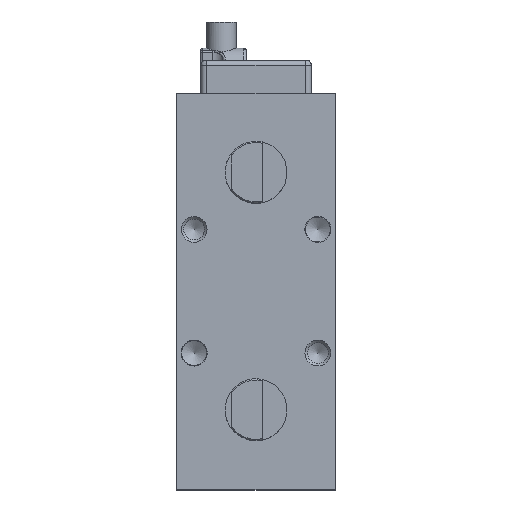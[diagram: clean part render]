
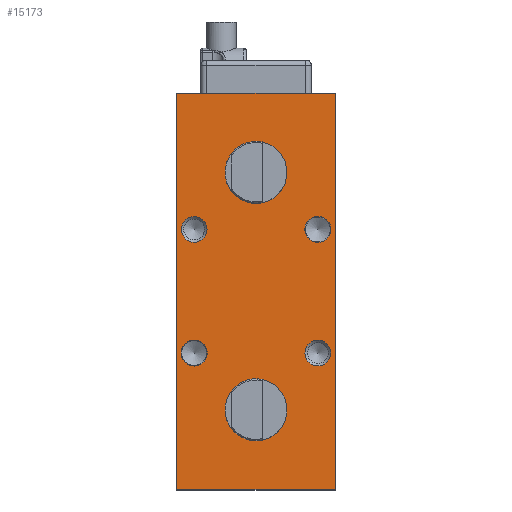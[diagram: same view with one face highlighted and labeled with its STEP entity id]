
A CAD part, top view. The second image highlights one B-rep face of the part: STEP entity #15173.
In plain terms, the highlighted planar face has unit normal (0, 0, 1).
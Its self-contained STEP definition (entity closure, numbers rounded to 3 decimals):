
#296=CIRCLE('',#16157,5.187);
#299=CIRCLE('',#16163,5.187);
#302=CIRCLE('',#16169,5.25);
#305=CIRCLE('',#16175,5.25);
#365=CIRCLE('',#16309,12.5);
#367=CIRCLE('',#16313,12.5);
#730=FACE_BOUND('',#2993,.T.);
#731=FACE_BOUND('',#2994,.T.);
#732=FACE_BOUND('',#2995,.T.);
#733=FACE_BOUND('',#2996,.T.);
#734=FACE_BOUND('',#2997,.T.);
#735=FACE_BOUND('',#2998,.T.);
#1243=PLANE('',#16319);
#2050=FACE_OUTER_BOUND('',#2992,.T.);
#2992=EDGE_LOOP('',(#13527,#13528,#13529,#13530));
#2993=EDGE_LOOP('',(#13531));
#2994=EDGE_LOOP('',(#13532));
#2995=EDGE_LOOP('',(#13533));
#2996=EDGE_LOOP('',(#13534));
#2997=EDGE_LOOP('',(#13535));
#2998=EDGE_LOOP('',(#13536));
#4114=LINE('',#23871,#5716);
#4124=LINE('',#23906,#5726);
#4591=LINE('',#25173,#6193);
#4592=LINE('',#25175,#6194);
#5716=VECTOR('',#18321,10.);
#5726=VECTOR('',#18351,10.);
#6193=VECTOR('',#19700,10.);
#6194=VECTOR('',#19703,10.);
#7349=VERTEX_POINT('',#23868);
#7350=VERTEX_POINT('',#23870);
#7364=VERTEX_POINT('',#23903);
#7365=VERTEX_POINT('',#23905);
#7601=VERTEX_POINT('',#24824);
#7605=VERTEX_POINT('',#24837);
#7609=VERTEX_POINT('',#24850);
#7613=VERTEX_POINT('',#24863);
#7697=VERTEX_POINT('',#25155);
#7699=VERTEX_POINT('',#25162);
#9073=EDGE_CURVE('',#7349,#7350,#4114,.T.);
#9091=EDGE_CURVE('',#7364,#7365,#4124,.T.);
#9534=EDGE_CURVE('',#7601,#7601,#296,.T.);
#9540=EDGE_CURVE('',#7605,#7605,#299,.T.);
#9546=EDGE_CURVE('',#7609,#7609,#302,.T.);
#9552=EDGE_CURVE('',#7613,#7613,#305,.T.);
#9686=EDGE_CURVE('',#7697,#7697,#365,.T.);
#9689=EDGE_CURVE('',#7699,#7699,#367,.T.);
#9694=EDGE_CURVE('',#7364,#7350,#4591,.T.);
#9695=EDGE_CURVE('',#7365,#7349,#4592,.T.);
#13527=ORIENTED_EDGE('',*,*,#9694,.T.);
#13528=ORIENTED_EDGE('',*,*,#9073,.F.);
#13529=ORIENTED_EDGE('',*,*,#9695,.F.);
#13530=ORIENTED_EDGE('',*,*,#9091,.F.);
#13531=ORIENTED_EDGE('',*,*,#9534,.T.);
#13532=ORIENTED_EDGE('',*,*,#9540,.T.);
#13533=ORIENTED_EDGE('',*,*,#9546,.T.);
#13534=ORIENTED_EDGE('',*,*,#9552,.T.);
#13535=ORIENTED_EDGE('',*,*,#9686,.T.);
#13536=ORIENTED_EDGE('',*,*,#9689,.T.);
#15173=ADVANCED_FACE('',(#2050,#730,#731,#732,#733,#734,#735),#1243,.T.);
#16157=AXIS2_PLACEMENT_3D('',#24825,#19289,#19290);
#16163=AXIS2_PLACEMENT_3D('',#24838,#19304,#19305);
#16169=AXIS2_PLACEMENT_3D('',#24851,#19319,#19320);
#16175=AXIS2_PLACEMENT_3D('',#24864,#19334,#19335);
#16309=AXIS2_PLACEMENT_3D('',#25156,#19676,#19677);
#16313=AXIS2_PLACEMENT_3D('',#25163,#19685,#19686);
#16319=AXIS2_PLACEMENT_3D('',#25174,#19701,#19702);
#18321=DIRECTION('',(0.,-1.,0.));
#18351=DIRECTION('',(0.,1.,0.));
#19289=DIRECTION('center_axis',(0.,0.,-1.));
#19290=DIRECTION('ref_axis',(1.,0.,0.));
#19304=DIRECTION('center_axis',(0.,0.,-1.));
#19305=DIRECTION('ref_axis',(1.,0.,0.));
#19319=DIRECTION('center_axis',(0.,0.,-1.));
#19320=DIRECTION('ref_axis',(1.,0.,0.));
#19334=DIRECTION('center_axis',(0.,0.,-1.));
#19335=DIRECTION('ref_axis',(1.,0.,0.));
#19676=DIRECTION('center_axis',(0.,0.,-1.));
#19677=DIRECTION('ref_axis',(1.,0.,0.));
#19685=DIRECTION('center_axis',(0.,0.,-1.));
#19686=DIRECTION('ref_axis',(1.,0.,0.));
#19700=DIRECTION('',(1.,0.,0.));
#19701=DIRECTION('center_axis',(0.,0.,1.));
#19702=DIRECTION('ref_axis',(0.,-1.,0.));
#19703=DIRECTION('',(1.,0.,0.));
#23868=CARTESIAN_POINT('',(32.,80.,115.));
#23870=CARTESIAN_POINT('',(32.,-80.,115.));
#23871=CARTESIAN_POINT('',(32.,80.,115.));
#23903=CARTESIAN_POINT('',(-32.,-80.,115.));
#23905=CARTESIAN_POINT('',(-32.,80.,115.));
#23906=CARTESIAN_POINT('',(-32.,80.,115.));
#24824=CARTESIAN_POINT('',(-30.188,25.,115.));
#24825=CARTESIAN_POINT('Origin',(-25.,25.,115.));
#24837=CARTESIAN_POINT('',(19.813,-25.,115.));
#24838=CARTESIAN_POINT('Origin',(25.,-25.,115.));
#24850=CARTESIAN_POINT('',(-30.25,-25.,115.));
#24851=CARTESIAN_POINT('Origin',(-25.,-25.,115.));
#24863=CARTESIAN_POINT('',(19.75,25.,115.));
#24864=CARTESIAN_POINT('Origin',(25.,25.,115.));
#25155=CARTESIAN_POINT('',(-12.5,-48.,115.));
#25156=CARTESIAN_POINT('Origin',(0.,-48.,115.));
#25162=CARTESIAN_POINT('',(-12.5,48.,115.));
#25163=CARTESIAN_POINT('Origin',(0.,48.,115.));
#25173=CARTESIAN_POINT('',(0.,-80.,115.));
#25174=CARTESIAN_POINT('Origin',(0.,80.,115.));
#25175=CARTESIAN_POINT('',(0.,80.,115.));
